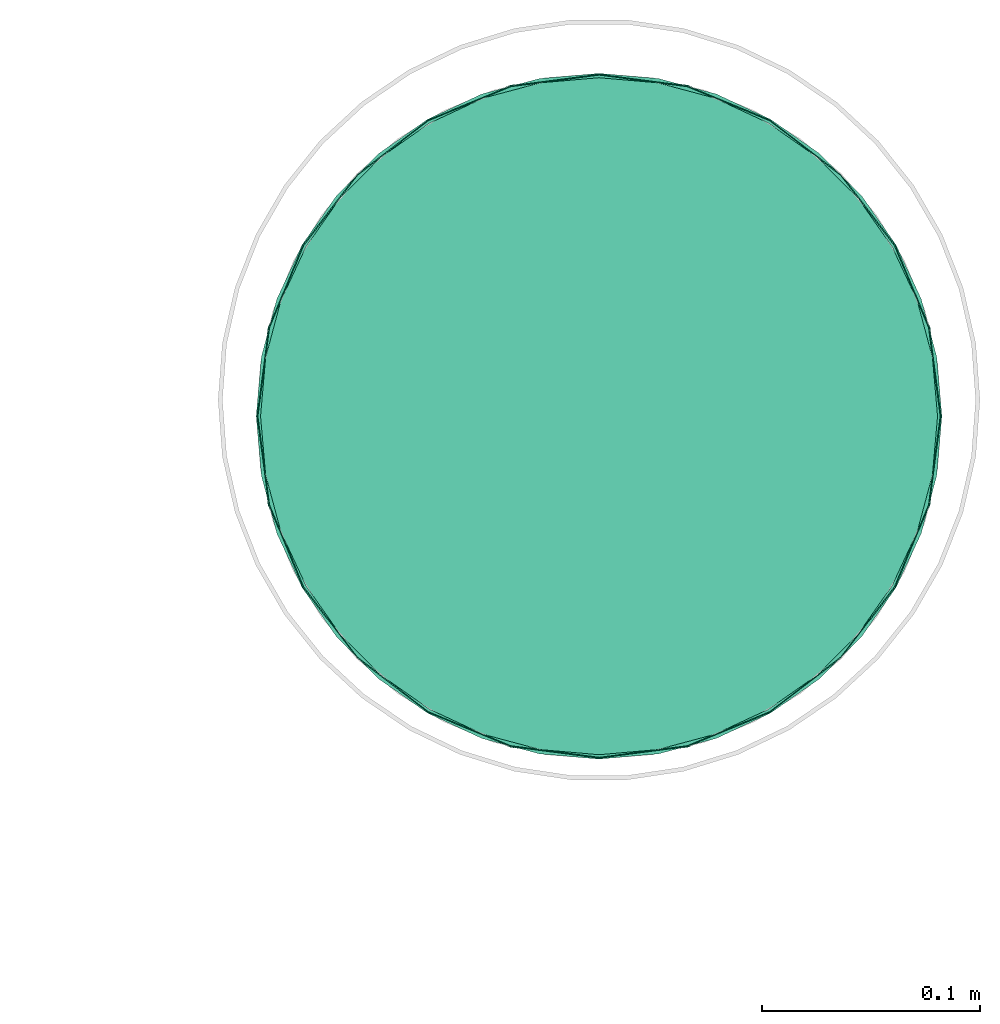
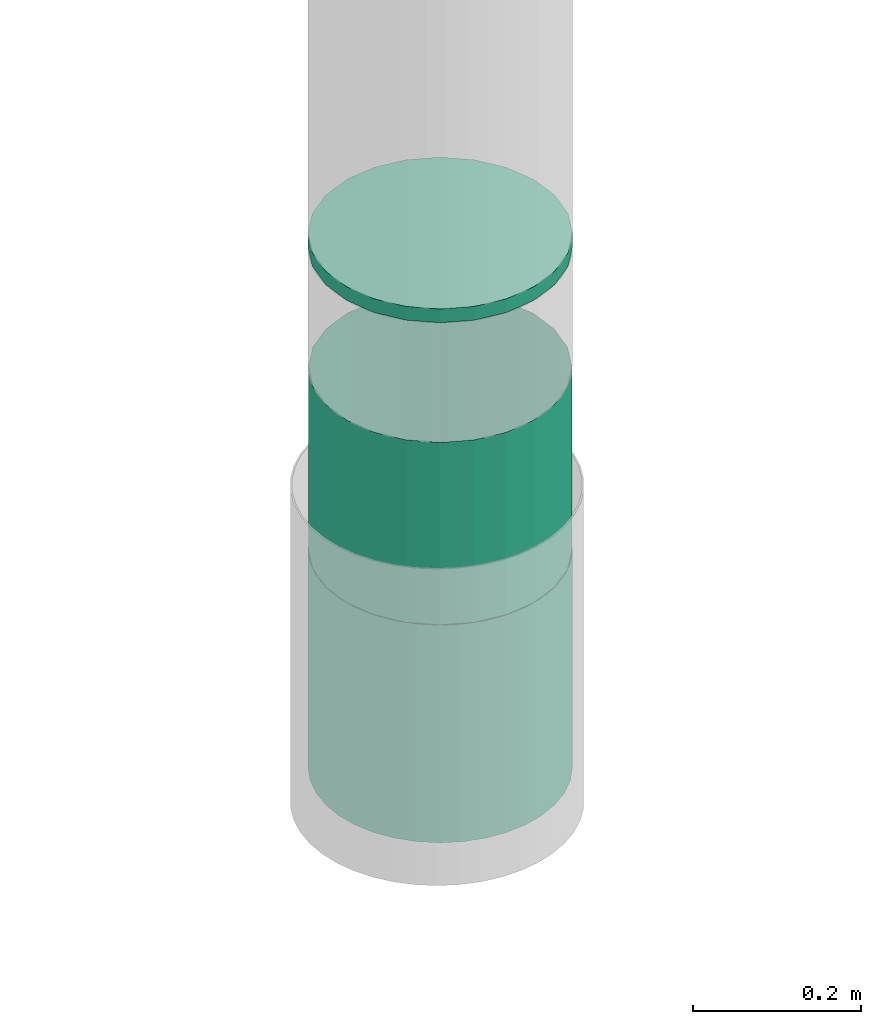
# One storey, part 9 of 9: 1 flow controller, 1 flow fitting, 1 flow segment.
"""IFC2X3 building model written with IfcOpenShell, lengths in millimetres."""

from ifc_helpers import new_model, entity, si_unit, converted_unit, derived_unit, direction, frame, origin_with_axes, place, context, subcontext, project, spatial, open_shell, faceted_brep, surface_model, source, transform, mapped, type_object, element, save


model = new_model("IFC2X3")

# Units and contexts
model_context = context("Model", 3, precision=0.01, world=frame((0.0, 4.29681676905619e-09, 0.0)), true_north=direction((4.01073788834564e-13, 1.0)))
plan_context = context("Plan", 3, precision=0.01, world=frame((0.0, 4.29681676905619e-09, 0.0)), true_north=direction((4.01073788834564e-13, 1.0)))
body_context = subcontext(model_context, "Body", "Model", "MODEL_VIEW")
ifc_project = project(units=[converted_unit("PLANEANGLEUNIT", "DEGREE", entity("IfcPositiveLengthMeasure", 0.0174532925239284), si_unit("PLANEANGLEUNIT", "RADIAN"), dimensions=[0, 0, 0, 0, 0, 0, 0]), si_unit("AREAUNIT", "SQUARE_METRE"), si_unit("LENGTHUNIT", "METRE", prefix="MILLI"), si_unit("MASSUNIT", "GRAM", prefix="KILO"), si_unit("POWERUNIT", "WATT"), si_unit("PRESSUREUNIT", "PASCAL"), si_unit("FORCEUNIT", "NEWTON", prefix="KILO"), si_unit("ELECTRICVOLTAGEUNIT", "VOLT"), si_unit("ELECTRICCURRENTUNIT", "AMPERE"), si_unit("THERMODYNAMICTEMPERATUREUNIT", "DEGREE_CELSIUS"), si_unit("TIMEUNIT", "SECOND"), si_unit("VOLUMEUNIT", "CUBIC_METRE"), derived_unit("LINEARVELOCITYUNIT", [(si_unit("LENGTHUNIT", "METRE"), 1), (si_unit("TIMEUNIT", "SECOND"), -1)]), derived_unit("VOLUMETRICFLOWRATEUNIT", [(si_unit("VOLUMEUNIT", "CUBIC_METRE"), 1), (si_unit("TIMEUNIT", "SECOND"), -1)]), derived_unit("THERMALTRANSMITTANCEUNIT", [(si_unit("POWERUNIT", "WATT"), 1), (si_unit("THERMODYNAMICTEMPERATUREUNIT", "KELVIN"), -1), (si_unit("AREAUNIT", "SQUARE_METRE"), -1)]), derived_unit("SOUNDPRESSUREUNIT", [(si_unit("PRESSUREUNIT", "PASCAL"), 1)])], contexts=[model_context, plan_context])

# Site, building, storey
site_placement = place(None, frame((0.0, -4.29681676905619e-09, 0.0), z_axis=(0.0, 0.0, 1.0), x_axis=(1.0, 0.0, 0.0)))
site = spatial("IfcSite", under=ifc_project, at=site_placement, Name="ENGM", CompositionType="ELEMENT")
building_placement = place(site_placement, frame((0.0, 4.29681676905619e-09, 0.0), z_axis=(0.0, 0.0, 1.0), x_axis=(1.0, 0.0, 0.0)))
building = spatial("IfcBuilding", under=site, at=building_placement, Name="TH", CompositionType="ELEMENT")
storey_placement = place(building_placement, frame((0.0, 0.0, 205200.0), z_axis=(0.0, 0.0, 1.0), x_axis=(1.0, 0.0, 0.0)))
storey = spatial("IfcBuildingStorey", under=building, at=storey_placement, Name="Nivå D + 1,2 m", CompositionType="ELEMENT", Elevation=205200.0)

# Flow controller
damper_type = type_object("IfcDamperType", Name="IGNIS-C-EI60-315", PredefinedType="FIREDAMPER")
shared_shape_1 = source(origin_with_axes(), body_context, "Body", "SurfaceModel", [
    surface_model("IfcShellBasedSurfaceModel", [(132.5, 78.5, -135.96599), (132.5, 111.01576, -111.01576), (132.5, 78.4, -135.79278), (132.5, 40.58282, -151.45717), (132.5, 0.0, -156.8), (132.5, 40.63459, -151.65035), (132.5, 0.0, -156.99999), (132.5, 110.87435, -110.87435), (132.5, 151.65035, -40.63459), (132.5, 156.8, 0.0), (132.5, 151.45717, -40.58282), (132.5, 156.99999, 0.0), (132.5, 135.96599, -78.5), (132.5, 135.79278, -78.4), (132.5, -40.58282, -151.45717), (132.5, -40.63459, -151.65035), (132.5, -78.4, -135.79278), (132.5, -111.01576, -111.01576), (132.5, -78.5, -135.96599), (132.5, -110.87435, -110.87435), (132.5, -135.79278, -78.4), (132.5, -135.96599, -78.5), (132.5, -151.45717, -40.58282), (132.5, -151.65035, -40.63459), (132.5, -156.8, 0.0), (132.5, -156.99999, 0.0), (132.5, 151.65035, 40.63459), (132.5, 151.45717, 40.58282), (132.5, 135.79278, 78.4), (132.5, 135.96599, 78.5), (132.5, 110.87435, 110.87435), (132.5, 111.01576, 111.01576), (132.5, 78.5, 135.96599), (132.5, 78.4, 135.79278), (132.5, 40.58282, 151.45717), (132.5, 40.63459, 151.65035), (132.5, 0.0, 156.8), (132.5, 0.0, 156.99999), (132.5, -135.79278, 78.4), (132.5, -110.87435, 110.87435), (132.5, -135.96599, 78.5), (132.5, -111.01576, 111.01576), (132.5, -151.65035, 40.63459), (132.5, -151.45717, 40.58282), (132.5, -40.58282, 151.45717), (132.5, -40.63459, 151.65035), (132.5, -78.4, 135.79278), (132.5, -78.5, 135.96599), (-132.5, 78.5, 135.96599), (-132.5, 111.01576, 111.01576), (-132.5, 78.4, 135.79278), (-132.5, 40.58282, 151.45717), (-132.5, 0.0, 156.8), (-132.5, 40.63459, 151.65035), (-132.5, 0.0, 156.99999), (-132.5, 110.87435, 110.87435), (-132.5, 151.65035, 40.63459), (-132.5, 156.8, 0.0), (-132.5, 151.45717, 40.58282), (-132.5, 156.99999, 0.0), (-132.5, 135.96599, 78.5), (-132.5, 135.79278, 78.4), (-132.5, -40.58282, 151.45717), (-132.5, -40.63459, 151.65035), (-132.5, -78.4, 135.79278), (-132.5, -111.01576, 111.01576), (-132.5, -78.5, 135.96599), (-132.5, -110.87435, 110.87435), (-132.5, -135.79278, 78.4), (-132.5, -135.96599, 78.5), (-132.5, -151.45717, 40.58282), (-132.5, -151.65035, 40.63459), (-132.5, -156.8, 0.0), (-132.5, -156.99999, 0.0), (-132.5, 151.65035, -40.63459), (-132.5, 151.45717, -40.58282), (-132.5, 135.79278, -78.4), (-132.5, 135.96599, -78.5), (-132.5, 110.87435, -110.87435), (-132.5, 111.01576, -111.01576), (-132.5, 78.5, -135.96599), (-132.5, 78.4, -135.79278), (-132.5, 40.58282, -151.45717), (-132.5, 40.63459, -151.65035), (-132.5, 0.0, -156.8), (-132.5, 0.0, -156.99999), (-132.5, -135.96599, -78.5), (-132.5, -135.79278, -78.4), (-132.5, -111.01576, -111.01576), (-132.5, -110.87435, -110.87435), (-132.5, -151.65035, -40.63459), (-132.5, -151.45717, -40.58282), (-132.5, -40.58282, -151.45717), (-132.5, -40.63459, -151.65035), (-132.5, -78.4, -135.79278), (-132.5, -78.5, -135.96599)], [open_shell([[[0, 1, 2]], [[0, 2, 3]], [[4, 5, 3]], [[5, 4, 6]], [[3, 5, 0]], [[2, 1, 7]], [[8, 9, 10]], [[9, 8, 11]], [[8, 10, 12]], [[7, 12, 13]], [[12, 7, 1]], [[13, 12, 10]], [[6, 14, 15]], [[15, 14, 16]], [[17, 18, 19]], [[16, 18, 15]], [[16, 19, 18]], [[6, 4, 14]], [[20, 21, 17]], [[21, 20, 22]], [[20, 17, 19]], [[23, 22, 24]], [[22, 23, 21]], [[23, 24, 25]], [[11, 26, 27]], [[27, 26, 28]], [[28, 29, 30]], [[29, 28, 26]], [[30, 29, 31]], [[31, 32, 33]], [[33, 32, 34]], [[34, 35, 36]], [[35, 34, 32]], [[36, 35, 37]], [[33, 30, 31]], [[38, 39, 40]], [[40, 39, 41]], [[38, 40, 42]], [[25, 43, 42]], [[42, 43, 38]], [[25, 24, 43]], [[44, 37, 45]], [[44, 45, 46]], [[39, 47, 41]], [[39, 46, 47]], [[47, 46, 45]], [[36, 37, 44]], [[27, 9, 11]], [[48, 49, 50]], [[48, 50, 51]], [[52, 53, 51]], [[53, 52, 54]], [[51, 53, 48]], [[50, 49, 55]], [[56, 57, 58]], [[57, 56, 59]], [[56, 58, 60]], [[49, 61, 55]], [[61, 49, 60]], [[61, 60, 58]], [[54, 62, 63]], [[63, 62, 64]], [[65, 66, 67]], [[64, 66, 63]], [[64, 67, 66]], [[54, 52, 62]], [[68, 69, 65]], [[69, 68, 70]], [[68, 65, 67]], [[71, 70, 72]], [[70, 71, 69]], [[71, 72, 73]], [[59, 74, 75]], [[75, 74, 76]], [[76, 77, 78]], [[77, 76, 74]], [[78, 77, 79]], [[79, 80, 81]], [[81, 80, 82]], [[82, 83, 84]], [[83, 82, 80]], [[84, 83, 85]], [[81, 78, 79]], [[86, 87, 88]], [[88, 87, 89]], [[87, 86, 90]], [[73, 91, 90]], [[90, 91, 87]], [[73, 72, 91]], [[92, 85, 93]], [[92, 93, 94]], [[89, 95, 88]], [[89, 94, 95]], [[95, 94, 93]], [[84, 85, 92]], [[75, 57, 59]], [[23, 90, 86]], [[88, 21, 86]], [[18, 95, 93]], [[88, 95, 17]], [[15, 93, 85]], [[90, 25, 73]], [[90, 23, 25]], [[86, 21, 23]], [[88, 17, 21]], [[18, 17, 95]], [[93, 15, 18]], [[85, 6, 15]], [[5, 83, 80]], [[79, 0, 80]], [[12, 77, 74]], [[79, 77, 1]], [[8, 74, 59]], [[83, 5, 6]], [[80, 0, 5]], [[79, 1, 0]], [[77, 12, 1]], [[8, 12, 74]], [[59, 11, 8]], [[83, 6, 85]], [[59, 56, 26]], [[32, 48, 53]], [[48, 31, 49]], [[54, 35, 53]], [[59, 26, 11]], [[26, 56, 60]], [[26, 60, 29]], [[60, 49, 29]], [[49, 31, 29]], [[32, 31, 48]], [[53, 35, 32]], [[54, 37, 35]], [[45, 63, 66]], [[65, 47, 66]], [[40, 69, 71]], [[65, 69, 41]], [[42, 71, 73]], [[63, 45, 37]], [[66, 47, 45]], [[65, 41, 47]], [[69, 40, 41]], [[42, 40, 71]], [[73, 25, 42]], [[63, 37, 54]], [[87, 91, 22]], [[87, 20, 89]], [[92, 94, 16]], [[19, 94, 89]], [[84, 92, 14]], [[72, 24, 91]], [[24, 22, 91]], [[22, 20, 87]], [[20, 19, 89]], [[94, 19, 16]], [[16, 14, 92]], [[14, 4, 84]], [[81, 82, 3]], [[81, 2, 78]], [[75, 76, 13]], [[7, 76, 78]], [[57, 75, 10]], [[4, 3, 82]], [[3, 2, 81]], [[2, 7, 78]], [[7, 13, 76]], [[75, 13, 10]], [[10, 9, 57]], [[84, 4, 82]], [[27, 58, 57]], [[51, 50, 33]], [[55, 30, 50]], [[51, 34, 52]], [[9, 27, 57]], [[61, 58, 27]], [[28, 61, 27]], [[28, 55, 61]], [[28, 30, 55]], [[50, 30, 33]], [[33, 34, 51]], [[34, 36, 52]], [[64, 62, 44]], [[64, 46, 67]], [[70, 68, 38]], [[39, 68, 67]], [[72, 70, 43]], [[36, 44, 62]], [[44, 46, 64]], [[46, 39, 67]], [[39, 38, 68]], [[70, 38, 43]], [[43, 24, 72]], [[52, 36, 62]]])]),
])
flow_controller_placement = place(storey_placement, frame((899285.21977, 483980.77639, 4448.75), z_axis=(1.0, 0.0, 0.0), x_axis=(0.0, 0.0, -1.0)))
element("IfcFlowController", 1, at=flow_controller_placement, inside=storey, type_object=damper_type, Name="IGNIS-C-EI60-315", context=body_context, shape_type="MappedRepresentation", body=[
    mapped(shared_shape_1, transform((0.0, 0.0, 0.0), scale=1.0)),
])

# Flow fitting
duct_fitting_type = type_object("IfcDuctFittingType", Name="magicirc_joint_001", PredefinedType="CONNECTOR")
shared_shape_2 = source(origin_with_axes(), body_context, "Body", "SurfaceModel", [
    surface_model("IfcShellBasedSurfaceModel", [(0.0, -40.764, 152.13332), (0.0, 0.0, 157.5), (0.0, 40.764, 152.13332), (0.0, 152.13332, -40.764), (0.0, 136.39901, -78.75), (0.0, 111.36932, -111.36932), (0.0, -78.75, -136.39901), (0.0, -111.36932, -111.36932), (0.0, -40.764, -152.13332), (0.0, -157.5, 0.0), (0.0, 0.0, -157.5), (0.0, 136.39901, 78.75), (0.0, 152.13332, 40.764), (0.0, 157.5, 0.0), (0.0, 111.36932, 111.36932), (0.0, 78.75, 136.39901), (0.0, -78.75, 136.39901), (0.0, -111.36932, 111.36932), (20.0, 40.764, 152.13332), (20.0, 0.0, 157.5), (20.0, -40.764, 152.13332), (20.0, 111.36932, 111.36932), (20.0, 78.75, 136.39901), (20.0, 136.39901, 78.75), (20.0, 152.13332, 40.764), (20.0, 157.5, 0.0), (0.0, 40.764, -152.13332), (0.0, 78.75, -136.39901), (20.0, 40.764, -152.13332), (20.0, -78.75, 136.39901), (0.0, -136.39901, 78.75), (0.0, -152.13332, 40.764), (0.0, -136.39901, -78.75), (0.0, -152.13332, -40.764), (20.0, 0.0, -157.5), (20.0, 78.75, -136.39901), (20.0, 111.36932, -111.36932), (20.0, 136.39901, -78.75), (20.0, 152.13332, -40.764), (20.0, -157.5, 0.0), (20.0, -40.764, -152.13332), (20.0, -111.36932, -111.36932), (20.0, -78.75, -136.39901), (20.0, -136.39901, -78.75), (20.0, -152.13332, -40.764), (20.0, -152.13332, 40.764), (20.0, -136.39901, 78.75), (20.0, -111.36932, 111.36932)], [open_shell([[[0, 1, 2]], [[3, 4, 5]], [[6, 7, 8]], [[9, 10, 8]], [[11, 12, 13]], [[14, 11, 15]], [[16, 0, 17]], [[18, 19, 20]], [[21, 15, 22]], [[11, 23, 24]], [[12, 24, 25]], [[14, 23, 11]], [[12, 11, 24]], [[13, 12, 25]], [[26, 27, 28]], [[16, 29, 20]], [[17, 29, 16]], [[0, 16, 20]], [[27, 26, 10]], [[30, 9, 31]], [[5, 27, 10]], [[10, 3, 5]], [[13, 10, 9]], [[32, 8, 7]], [[33, 9, 32]], [[8, 32, 9]], [[13, 3, 10]], [[15, 11, 13]], [[30, 15, 13]], [[2, 15, 30]], [[17, 0, 30]], [[30, 0, 2]], [[13, 9, 30]], [[34, 28, 35]], [[34, 35, 36]], [[36, 37, 38]], [[36, 38, 34]], [[34, 38, 39]], [[40, 41, 42]], [[41, 40, 43]], [[43, 39, 44]], [[43, 40, 34]], [[34, 39, 43]], [[38, 45, 39]], [[25, 24, 23]], [[25, 23, 22]], [[25, 22, 46]], [[22, 23, 21]], [[46, 22, 18]], [[46, 20, 47]], [[46, 45, 25]], [[47, 20, 29]], [[18, 20, 46]], [[25, 45, 38]], [[45, 9, 39]], [[46, 31, 45]], [[17, 47, 29]], [[46, 47, 30]], [[46, 30, 31]], [[31, 9, 45]], [[0, 19, 1]], [[17, 30, 47]], [[19, 0, 20]], [[22, 2, 18]], [[21, 23, 14]], [[22, 15, 2]], [[2, 1, 18]], [[14, 15, 21]], [[18, 1, 19]], [[38, 13, 25]], [[37, 3, 38]], [[5, 36, 35]], [[37, 36, 4]], [[27, 35, 28]], [[37, 4, 3]], [[3, 13, 38]], [[26, 34, 10]], [[5, 35, 27]], [[5, 4, 36]], [[34, 26, 28]], [[42, 41, 6]], [[40, 42, 8]], [[33, 43, 44]], [[43, 32, 41]], [[9, 44, 39]], [[40, 8, 10]], [[8, 42, 6]], [[7, 41, 32]], [[7, 6, 41]], [[32, 43, 33]], [[44, 9, 33]], [[40, 10, 34]]])]),
])
flow_fitting_placement = place(storey_placement, frame((899285.21977, 483980.77639, 4755.5), z_axis=(0.0, -1.0, 0.0), x_axis=(0.0, 0.0, 1.0)))
element("IfcFlowFitting", 2, at=flow_fitting_placement, inside=storey, type_object=duct_fitting_type, Name="magicirc_joint_001", context=body_context, shape_type="MappedRepresentation", body=[
    mapped(shared_shape_2, transform((0.0, 0.0, 0.0), scale=1.0)),
])

# Flow segment
duct_segment_type = type_object("IfcDuctSegmentType", Name="KK002T - Spiro kanaler, Forsinket stål, korte bend", PredefinedType="RIGIDSEGMENT")
flow_segment_placement = place(storey_placement, frame((899285.21977, 483980.77639, 753.503659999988), z_axis=(1.0, 0.0, 0.0), x_axis=(0.0, 0.0, 1.0)))
element("IfcFlowSegment", 3, at=flow_segment_placement, inside=storey, type_object=duct_segment_type, Name="KK002T - Spiro kanaler, Forsinket stål, korte bend", context=body_context, shape_type="Brep", body=[
    faceted_brep([(3246.49634000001, 153.137605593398, -27.0022916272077), (3246.49634000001, 155.5, 0.0), (3562.7, 155.5, 0.0), (3562.7, 153.137605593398, -27.0022916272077), (3246.49634000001, 146.122202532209, -53.1841322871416), (3562.7, 146.122202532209, -53.1841322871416), (3246.49634000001, 134.66695028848, -77.7500000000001), (3562.7, 134.66695028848, -77.7500000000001), (3246.49634000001, 119.119910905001, -99.9534733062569), (3562.7, 119.119910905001, -99.9534733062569), (3246.49634000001, 99.9534733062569, -119.119910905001), (3562.7, 99.9534733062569, -119.119910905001), (3246.49634000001, 77.75, -134.66695028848), (3562.7, 77.75, -134.66695028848), (3246.49634000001, 53.1841322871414, -146.122202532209), (3562.7, 53.1841322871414, -146.122202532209), (3246.49634000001, 27.0022916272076, -153.137605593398), (3562.7, 27.0022916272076, -153.137605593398), (3246.49634000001, -2.8564886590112e-14, -155.5), (3562.7, -2.8564886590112e-14, -155.5), (3246.49634000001, -27.0022916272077, -153.137605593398), (3562.7, -27.0022916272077, -153.137605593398), (3246.49634000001, -53.1841322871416, -146.122202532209), (3562.7, -53.1841322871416, -146.122202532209), (3246.49634000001, -77.7500000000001, -134.66695028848), (3562.7, -77.7500000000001, -134.66695028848), (3246.49634000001, -99.9534733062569, -119.119910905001), (3562.7, -99.9534733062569, -119.119910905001), (3246.49634000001, -119.119910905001, -99.9534733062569), (3562.7, -119.119910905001, -99.9534733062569), (3246.49634000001, -134.66695028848, -77.75), (3562.7, -134.66695028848, -77.75), (3246.49634000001, -146.122202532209, -53.1841322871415), (3562.7, -146.122202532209, -53.1841322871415), (3246.49634000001, -153.137605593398, -27.0022916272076), (3562.7, -153.137605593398, -27.0022916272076), (3246.49634000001, -155.5, 1.90432577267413e-14), (3562.7, -155.5, 1.90432577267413e-14), (3246.49634000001, -153.137605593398, 27.0022916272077), (3562.7, -153.137605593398, 27.0022916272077), (3246.49634000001, -146.122202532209, 53.1841322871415), (3562.7, -146.122202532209, 53.1841322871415), (3246.49634000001, -134.66695028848, 77.75), (3562.7, -134.66695028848, 77.75), (3246.49634000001, -119.119910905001, 99.9534733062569), (3562.7, -119.119910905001, 99.9534733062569), (3246.49634000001, -99.9534733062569, 119.119910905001), (3562.7, -99.9534733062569, 119.119910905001), (3246.49634000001, -77.75, 134.66695028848), (3562.7, -77.75, 134.66695028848), (3246.49634000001, -53.1841322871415, 146.122202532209), (3562.7, -53.1841322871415, 146.122202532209), (3246.49634000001, -27.0022916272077, 153.137605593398), (3562.7, -27.0022916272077, 153.137605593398), (3246.49634000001, 9.52162886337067e-15, 155.5), (3562.7, 9.52162886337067e-15, 155.5), (3246.49634000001, 27.0022916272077, 153.137605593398), (3562.7, 27.0022916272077, 153.137605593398), (3246.49634000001, 53.1841322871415, 146.122202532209), (3562.7, 53.1841322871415, 146.122202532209), (3246.49634000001, 77.75, 134.66695028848), (3562.7, 77.75, 134.66695028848), (3246.49634000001, 99.9534733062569, 119.119910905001), (3562.7, 99.9534733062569, 119.119910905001), (3246.49634000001, 119.119910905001, 99.9534733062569), (3562.7, 119.119910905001, 99.9534733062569), (3246.49634000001, 134.66695028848, 77.75), (3562.7, 134.66695028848, 77.75), (3246.49634000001, 146.122202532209, 53.1841322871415), (3562.7, 146.122202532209, 53.1841322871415), (3246.49634000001, 153.137605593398, 27.0022916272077), (3562.7, 153.137605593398, 27.0022916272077), (3246.49634000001, 157.5, 0.0), (3246.49634000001, 155.107221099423, -27.3495879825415), (3562.7, 155.107221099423, -27.3495879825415), (3562.7, 157.5, 0.0), (3246.49634000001, 155.107221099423, 27.3495879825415), (3562.7, 155.107221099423, 27.3495879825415), (3246.49634000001, 148.001587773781, 53.8681725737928), (3562.7, 148.001587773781, 53.8681725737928), (3246.49634000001, 136.399001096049, 78.75), (3562.7, 136.399001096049, 78.75), (3246.49634000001, 120.651999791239, 101.23904852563), (3562.7, 120.651999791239, 101.23904852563), (3246.49634000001, 101.23904852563, 120.651999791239), (3562.7, 101.23904852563, 120.651999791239), (3246.49634000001, 78.75, 136.399001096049), (3562.7, 78.75, 136.399001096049), (3246.49634000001, 53.8681725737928, 148.001587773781), (3562.7, 53.8681725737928, 148.001587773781), (3246.49634000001, 27.3495879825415, 155.107221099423), (3562.7, 27.3495879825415, 155.107221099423), (3246.49634000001, 9.64409354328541e-15, 157.5), (3562.7, 9.64409354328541e-15, 157.5), (3246.49634000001, -27.3495879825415, 155.107221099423), (3562.7, -27.3495879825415, 155.107221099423), (3246.49634000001, -53.8681725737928, 148.001587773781), (3562.7, -53.8681725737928, 148.001587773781), (3246.49634000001, -78.75, 136.399001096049), (3562.7, -78.75, 136.399001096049), (3246.49634000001, -101.23904852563, 120.651999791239), (3562.7, -101.23904852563, 120.651999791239), (3246.49634000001, -120.651999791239, 101.23904852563), (3562.7, -120.651999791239, 101.23904852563), (3246.49634000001, -136.399001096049, 78.75), (3562.7, -136.399001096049, 78.75), (3246.49634000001, -148.001587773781, 53.8681725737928), (3562.7, -148.001587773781, 53.8681725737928), (3246.49634000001, -155.107221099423, 27.3495879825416), (3562.7, -155.107221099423, 27.3495879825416), (3246.49634000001, -157.5, 1.92881870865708e-14), (3562.7, -157.5, 1.92881870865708e-14), (3246.49634000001, -155.107221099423, -27.3495879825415), (3562.7, -155.107221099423, -27.3495879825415), (3246.49634000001, -148.001587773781, -53.8681725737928), (3562.7, -148.001587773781, -53.8681725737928), (3246.49634000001, -136.399001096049, -78.75), (3562.7, -136.399001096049, -78.75), (3246.49634000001, -120.651999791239, -101.23904852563), (3562.7, -120.651999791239, -101.23904852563), (3246.49634000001, -101.23904852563, -120.651999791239), (3562.7, -101.23904852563, -120.651999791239), (3246.49634000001, -78.7500000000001, -136.399001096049), (3562.7, -78.7500000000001, -136.399001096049), (3246.49634000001, -53.8681725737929, -148.001587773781), (3562.7, -53.8681725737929, -148.001587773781), (3246.49634000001, -27.3495879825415, -155.107221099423), (3562.7, -27.3495879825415, -155.107221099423), (3246.49634000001, -2.89322806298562e-14, -157.5), (3562.7, -2.89322806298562e-14, -157.5), (3246.49634000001, 27.3495879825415, -155.107221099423), (3562.7, 27.3495879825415, -155.107221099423), (3246.49634000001, 53.8681725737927, -148.001587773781), (3562.7, 53.8681725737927, -148.001587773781), (3246.49634000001, 78.75, -136.399001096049), (3562.7, 78.75, -136.399001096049), (3246.49634000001, 101.23904852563, -120.651999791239), (3562.7, 101.23904852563, -120.651999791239), (3246.49634000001, 120.651999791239, -101.23904852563), (3562.7, 120.651999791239, -101.23904852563), (3246.49634000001, 136.399001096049, -78.7500000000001), (3562.7, 136.399001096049, -78.7500000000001), (3246.49634000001, 148.001587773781, -53.8681725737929), (3562.7, 148.001587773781, -53.8681725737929)], [[[0, 1, 2, 3]], [[4, 0, 3, 5]], [[6, 4, 5, 7]], [[8, 6, 7, 9]], [[10, 8, 9, 11]], [[12, 10, 11, 13]], [[14, 12, 13, 15]], [[16, 14, 15, 17]], [[18, 16, 17, 19]], [[20, 18, 19, 21]], [[22, 20, 21, 23]], [[24, 22, 23, 25]], [[26, 24, 25, 27]], [[28, 26, 27, 29]], [[30, 28, 29, 31]], [[32, 30, 31, 33]], [[34, 32, 33, 35]], [[36, 34, 35, 37]], [[38, 36, 37, 39]], [[40, 38, 39, 41]], [[42, 40, 41, 43]], [[44, 42, 43, 45]], [[46, 44, 45, 47]], [[48, 46, 47, 49]], [[50, 48, 49, 51]], [[52, 50, 51, 53]], [[54, 52, 53, 55]], [[56, 54, 55, 57]], [[58, 56, 57, 59]], [[60, 58, 59, 61]], [[62, 60, 61, 63]], [[64, 62, 63, 65]], [[66, 64, 65, 67]], [[68, 66, 67, 69]], [[70, 68, 69, 71]], [[1, 70, 71, 2]], [[72, 73, 74, 75]], [[76, 72, 75, 77]], [[78, 76, 77, 79]], [[80, 78, 79, 81]], [[82, 80, 81, 83]], [[84, 82, 83, 85]], [[86, 84, 85, 87]], [[88, 86, 87, 89]], [[90, 88, 89, 91]], [[92, 90, 91, 93]], [[94, 92, 93, 95]], [[96, 94, 95, 97]], [[98, 96, 97, 99]], [[100, 98, 99, 101]], [[102, 100, 101, 103]], [[104, 102, 103, 105]], [[106, 104, 105, 107]], [[108, 106, 107, 109]], [[110, 108, 109, 111]], [[112, 110, 111, 113]], [[114, 112, 113, 115]], [[116, 114, 115, 117]], [[118, 116, 117, 119]], [[120, 118, 119, 121]], [[122, 120, 121, 123]], [[124, 122, 123, 125]], [[126, 124, 125, 127]], [[128, 126, 127, 129]], [[130, 128, 129, 131]], [[132, 130, 131, 133]], [[134, 132, 133, 135]], [[136, 134, 135, 137]], [[138, 136, 137, 139]], [[140, 138, 139, 141]], [[142, 140, 141, 143]], [[73, 142, 143, 74]], [[75, 74, 143, 141, 139, 137, 135, 133, 131, 129, 127, 125, 123, 121, 119, 117, 115, 113, 111, 109, 107, 105, 103, 101, 99, 97, 95, 93, 91, 89, 87, 85, 83, 81, 79, 77], [2, 71, 69, 67, 65, 63, 61, 59, 57, 55, 53, 51, 49, 47, 45, 43, 41, 39, 37, 35, 33, 31, 29, 27, 25, 23, 21, 19, 17, 15, 13, 11, 9, 7, 5, 3]], [[76, 78, 80, 82, 84, 86, 88, 90, 92, 94, 96, 98, 100, 102, 104, 106, 108, 110, 112, 114, 116, 118, 120, 122, 124, 126, 128, 130, 132, 134, 136, 138, 140, 142, 73, 72], [4, 6, 8, 10, 12, 14, 16, 18, 20, 22, 24, 26, 28, 30, 32, 34, 36, 38, 40, 42, 44, 46, 48, 50, 52, 54, 56, 58, 60, 62, 64, 66, 68, 70, 1, 0]]], orient=[[False], [False], [False], [False], [False], [False], [False], [False], [False], [False], [False], [False], [False], [False], [False], [False], [False], [False], [False], [False], [False], [False], [False], [False], [False], [False], [False], [False], [False], [False], [False], [False], [False], [False], [False], [False], [False], [False], [False], [False], [False], [False], [False], [False], [False], [False], [False], [False], [False], [False], [False], [False], [False], [False], [False], [False], [False], [False], [False], [False], [False], [False], [False], [False], [False], [False], [False], [False], [False], [False], [False], [False], [False, False], [False, False]]),
])

save(model, "model.ifc")
